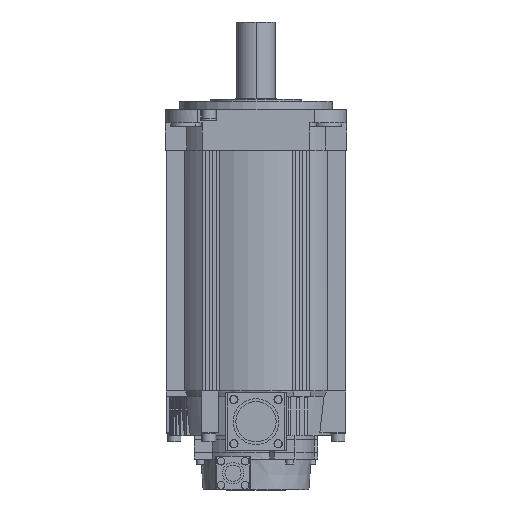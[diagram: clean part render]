
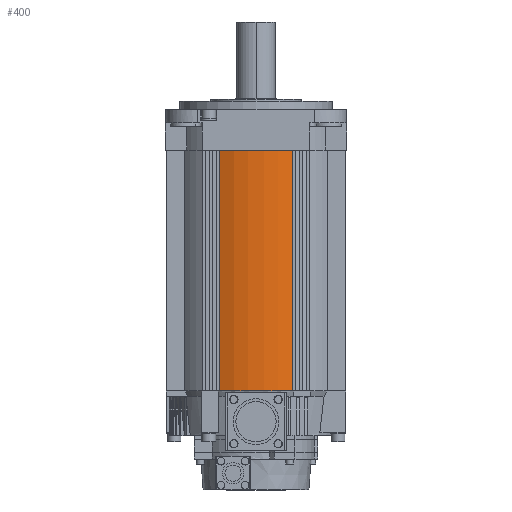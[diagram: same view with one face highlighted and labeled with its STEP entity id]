
A CAD part, front view. The second image highlights one B-rep face of the part: STEP entity #400.
In plain terms, the highlighted cylindrical face has radius 64 mm (diameter 128 mm), a partial arc.
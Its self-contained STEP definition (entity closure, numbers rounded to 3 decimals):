
#214 = ORIENTED_EDGE ( 'NONE', *, *, #280, .F. ) ;
#220 = ORIENTED_EDGE ( 'NONE', *, *, #11528, .F. ) ;
#226 = VERTEX_POINT ( 'NONE', #17178 ) ;
#268 = ORIENTED_EDGE ( 'NONE', *, *, #310, .F. ) ;
#280 = EDGE_CURVE ( 'NONE', #283, #17444, #17299, .T. ) ;
#281 = ORIENTED_EDGE ( 'NONE', *, *, #284, .F. ) ;
#283 = VERTEX_POINT ( 'NONE', #17290 ) ;
#284 = EDGE_CURVE ( 'NONE', #226, #283, #17289, .T. ) ;
#293 = EDGE_LOOP ( 'NONE', ( #268, #220, #214, #281 ) ) ;
#310 = EDGE_CURVE ( 'NONE', #11519, #226, #17367, .T. ) ;
#400 = ADVANCED_FACE ( 'NONE', ( #17491 ), #17490, .T. ) ;
#9898 = CARTESIAN_POINT ( 'NONE',  ( 26.3, -58.346, -202. ) ) ;
#11519 = VERTEX_POINT ( 'NONE', #21162 ) ;
#11528 = EDGE_CURVE ( 'NONE', #17444, #11519, #21148, .T. ) ;
#17178 = CARTESIAN_POINT ( 'NONE',  ( -26.3, -58.346, -29. ) ) ;
#17285 = DIRECTION ( 'NONE',  ( 1., 0., 0. ) ) ;
#17286 = DIRECTION ( 'NONE',  ( 0., 0., 1. ) ) ;
#17287 = CARTESIAN_POINT ( 'NONE',  ( 0., 0., -29. ) ) ;
#17288 = AXIS2_PLACEMENT_3D ( 'NONE', #17287, #17286, #17285 ) ;
#17289 = CIRCLE ( 'NONE', #17288, 64. ) ;
#17290 = CARTESIAN_POINT ( 'NONE',  ( 26.3, -58.346, -29. ) ) ;
#17296 = DIRECTION ( 'NONE',  ( 0., 0., -1. ) ) ;
#17297 = VECTOR ( 'NONE', #17296, 1000. ) ;
#17298 = CARTESIAN_POINT ( 'NONE',  ( 26.3, -58.346, -383.019 ) ) ;
#17299 = LINE ( 'NONE', #17298, #17297 ) ;
#17364 = DIRECTION ( 'NONE',  ( 0., 0., 1. ) ) ;
#17365 = VECTOR ( 'NONE', #17364, 1000. ) ;
#17366 = CARTESIAN_POINT ( 'NONE',  ( -26.3, -58.346, -383.019 ) ) ;
#17367 = LINE ( 'NONE', #17366, #17365 ) ;
#17444 = VERTEX_POINT ( 'NONE', #9898 ) ;
#17486 = DIRECTION ( 'NONE',  ( 1., 0., 0. ) ) ;
#17487 = DIRECTION ( 'NONE',  ( 0., 0., 1. ) ) ;
#17488 = CARTESIAN_POINT ( 'NONE',  ( 0., 0., -383.019 ) ) ;
#17489 = AXIS2_PLACEMENT_3D ( 'NONE', #17488, #17487, #17486 ) ;
#17490 = CYLINDRICAL_SURFACE ( 'NONE', #17489, 64. ) ;
#17491 = FACE_OUTER_BOUND ( 'NONE', #293, .T. ) ;
#21144 = DIRECTION ( 'NONE',  ( 1., 0., 0. ) ) ;
#21145 = DIRECTION ( 'NONE',  ( 0., 0., -1. ) ) ;
#21146 = CARTESIAN_POINT ( 'NONE',  ( 0., 0., -202. ) ) ;
#21147 = AXIS2_PLACEMENT_3D ( 'NONE', #21146, #21145, #21144 ) ;
#21148 = CIRCLE ( 'NONE', #21147, 64. ) ;
#21162 = CARTESIAN_POINT ( 'NONE',  ( -26.3, -58.346, -202. ) ) ;
